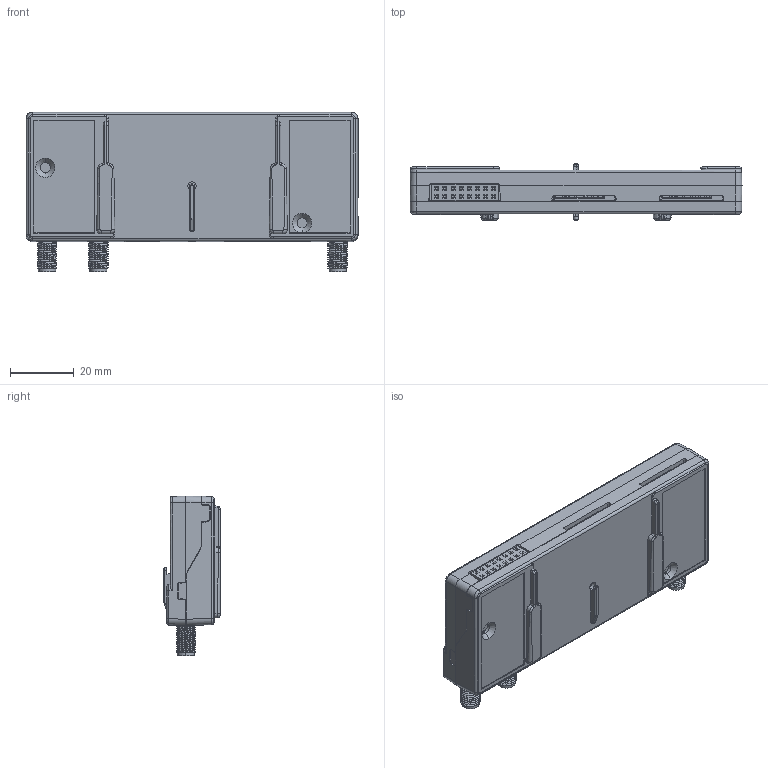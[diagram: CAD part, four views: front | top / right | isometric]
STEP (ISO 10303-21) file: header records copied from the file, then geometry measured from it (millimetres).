
FILE_DESCRIPTION (( 'STEP AP214' ), '1' );
FILE_NAME ('50002035-XX-REV A.STEP', '2024-05-01T08:07:44', ( 'Windows User' ), ( 'Digi International' ), 'SwSTEP 2.0', 'SolidWorks 2022', '' );
FILE_SCHEMA (( 'AUTOMOTIVE_DESIGN' ));
Length unit declared in the file: millimetre
Products named in the file (1): 50002035-XX-REV A
Bounding box: 104 x 17.67 x 50.1 mm (x, y, z)
Volume: 28759.1 mm3; surface area: 41516.9 mm2
Topology: 34 solids, 34 shells, 3602 faces, 9723 edges, 6261 vertices
Faces by surface type: plane 2327, cylinder 971, bspline 153, cone 77, torus 44, sphere 30
Entity records: 161515 total; most frequent: CARTESIAN_POINT 32141, ORIENTED_EDGE 19398, DIRECTION 17456, EDGE_CURVE 9699, VECTOR 7152, LINE 7152, VERTEX_POINT 6261, AXIS2_PLACEMENT_3D 5152
